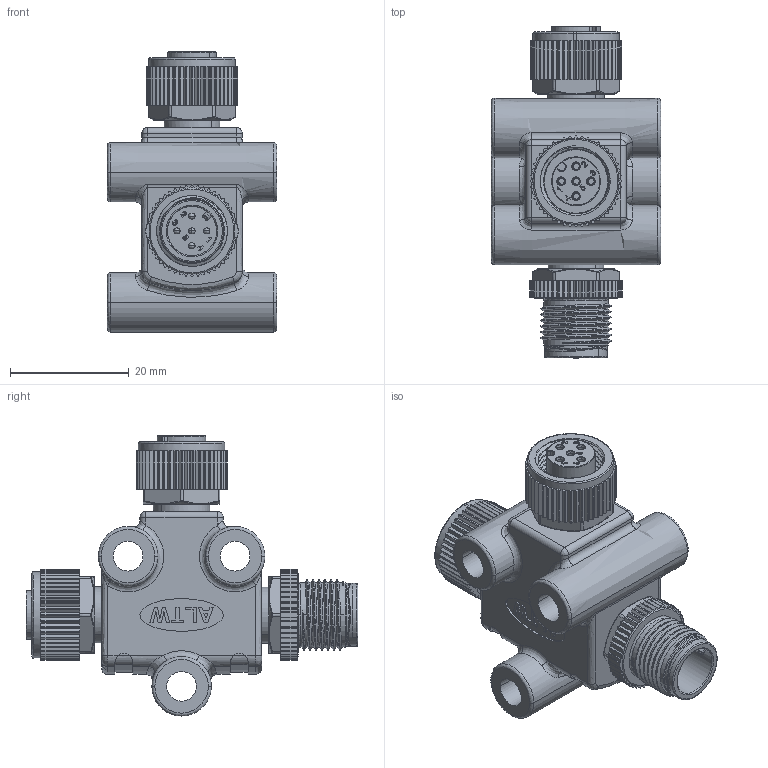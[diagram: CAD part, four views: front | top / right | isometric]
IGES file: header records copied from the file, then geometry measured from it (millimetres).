
Start section:  PTC IGES file: hpc-050505-ffm-ts001_sw0001.igs
Global section: file name: hpc-050505-ffm-ts001_sw0001.igs; native system: Creo Parametric by Parametric Technology Corporation; preprocessor: 2017170; author: L100003; organization: Unknown; date: 20230605.103138; units: millimetre
Bounding box: 28.5 x 55.8 x 47.1 mm (x, y, z)
Volume: 17793.8 mm3; surface area: 12790 mm2
Topology: 4 solids, 6 shells, 2444 faces, 6521 edges, 4086 vertices
Faces by surface type: bspline 1408, revolution 838, extrusion 198
